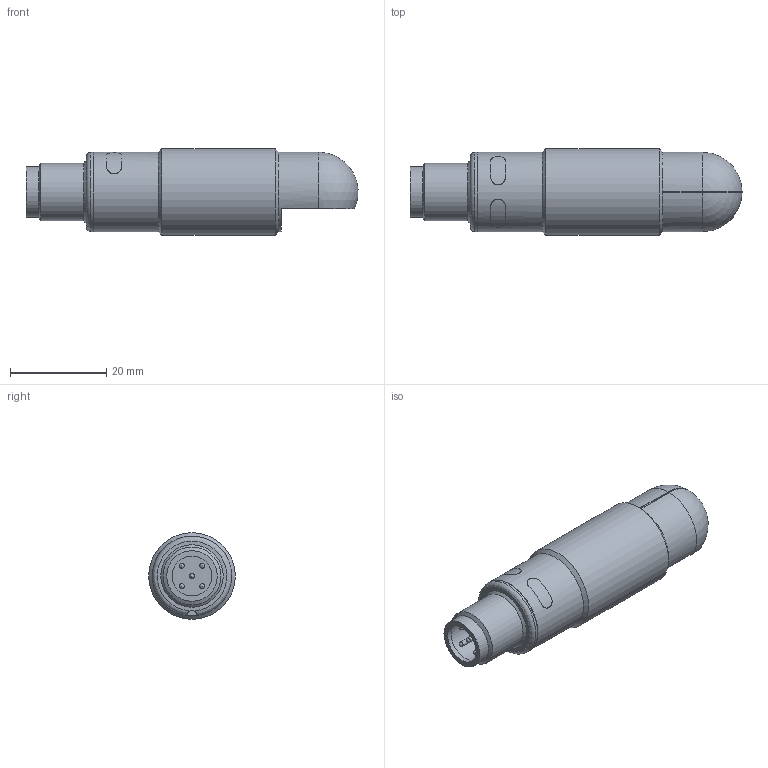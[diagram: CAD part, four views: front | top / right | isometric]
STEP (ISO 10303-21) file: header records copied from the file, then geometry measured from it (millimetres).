
FILE_DESCRIPTION(/* description */ ('Ipc-25 /CXX/M18'),/* implementation_level */ '2;1');
FILE_NAME(/* name */ 'J:\Projekte\Kunststoff-Blechteile\Zeichnungen\Bibliothek Inventor\3D Solids\pico+\STP\pico+100\pico+100_WK_X.stp',/* time_stamp */ '2017-11-06T12:09:25+01:00',/* author */ ('Oliver Liedtke'),/* organization */ (''),/* preprocessor_version */ 'ST-DEVELOPER v16.5',/* originating_system */ 'Autodesk Inventor 2017',/* authorisation */ '');
FILE_SCHEMA (('AUTOMOTIVE_DESIGN { 1 0 10303 214 3 1 1 }'));
Length unit declared in the file: millimetre
Products named in the file (1): pico+100_WK_X
Bounding box: 68.98 x 18 x 18 mm (x, y, z)
Volume: 12664.8 mm3; surface area: 4074 mm2
Topology: 1 solids, 1 shells, 57 faces, 132 edges, 86 vertices
Faces by surface type: cylinder 21, plane 20, sphere 7, cone 4, bspline 4, torus 1
Full cylindrical faces by diameter (mm): 1 x5, 8.3 x1, 9 x1, 10.5 x2, 12 x1, 14 x1, 16.3 x1, 16.5 x2, 18 x1
Entity records: 3035 total; most frequent: CARTESIAN_POINT 1815, DIRECTION 246, ORIENTED_EDGE 182, AXIS2_PLACEMENT_3D 111, EDGE_LOOP 91, EDGE_CURVE 91, VERTEX_POINT 70, FACE_OUTER_BOUND 57
